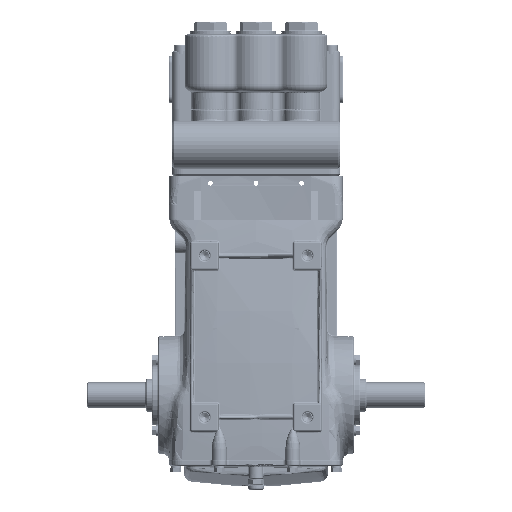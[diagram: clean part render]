
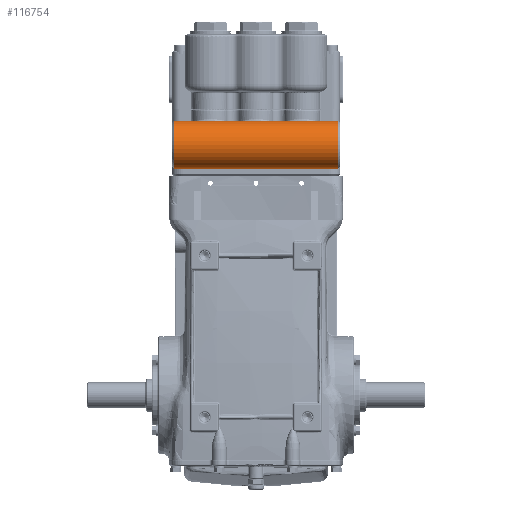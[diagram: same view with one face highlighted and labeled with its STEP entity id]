
A CAD part, front view. The second image highlights one B-rep face of the part: STEP entity #116754.
In plain terms, the highlighted cylindrical face has radius 32.5 mm (diameter 65 mm), a partial arc.
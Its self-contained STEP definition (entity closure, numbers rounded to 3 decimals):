
#525 = LINE ( 'NONE', #527, #55181 ) ;
#527 = CARTESIAN_POINT ( 'NONE',  ( 114., -82., 308.5 ) ) ;
#528 = DIRECTION ( 'NONE',  ( -1., 0., 0. ) ) ;
#587 = LINE ( 'NONE', #589, #55199 ) ;
#589 = CARTESIAN_POINT ( 'NONE',  ( 114., -82., 373.5 ) ) ;
#590 = DIRECTION ( 'NONE',  ( -1., 0., 0. ) ) ;
#9166 = AXIS2_PLACEMENT_3D ( 'NONE', #146806, #146810, #146812 ) ;
#9169 = FACE_OUTER_BOUND ( 'NONE', #172595, .T. ) ;
#9188 = CYLINDRICAL_SURFACE ( 'NONE', #9166, 32.5 ) ;
#55181 = VECTOR ( 'NONE', #528, 1000. ) ;
#55199 = VECTOR ( 'NONE', #590, 1000. ) ;
#72264 = CARTESIAN_POINT ( 'NONE',  ( 112., -82., 341. ) ) ;
#72267 = DIRECTION ( 'NONE',  ( -1., 0., 0. ) ) ;
#72269 = DIRECTION ( 'NONE',  ( 0., 0., -1. ) ) ;
#72278 = CARTESIAN_POINT ( 'NONE',  ( -112., -82., 341. ) ) ;
#72281 = DIRECTION ( 'NONE',  ( 1., 0., 0. ) ) ;
#72283 = DIRECTION ( 'NONE',  ( 0., 0., -1. ) ) ;
#75928 = CIRCLE ( 'NONE', #229793, 32.5 ) ;
#75935 = CIRCLE ( 'NONE', #229797, 32.5 ) ;
#109432 = VERTEX_POINT ( 'NONE', #248234 ) ;
#109437 = VERTEX_POINT ( 'NONE', #248240 ) ;
#109440 = VERTEX_POINT ( 'NONE', #248246 ) ;
#109443 = VERTEX_POINT ( 'NONE', #248248 ) ;
#116754 = ADVANCED_FACE ( 'NONE', ( #9169 ), #9188, .T. ) ;
#134802 = EDGE_CURVE ( 'NONE', #109437, #109432, #75928, .T. ) ;
#134804 = EDGE_CURVE ( 'NONE', #109443, #109440, #75935, .T. ) ;
#138192 = EDGE_CURVE ( 'NONE', #109437, #109440, #525, .T. ) ;
#138213 = EDGE_CURVE ( 'NONE', #109432, #109443, #587, .T. ) ;
#146806 = CARTESIAN_POINT ( 'NONE',  ( 114., -82., 341. ) ) ;
#146810 = DIRECTION ( 'NONE',  ( -1., 0., 0. ) ) ;
#146812 = DIRECTION ( 'NONE',  ( 0., 0., 1. ) ) ;
#156472 = ORIENTED_EDGE ( 'NONE', *, *, #134804, .T. ) ;
#156480 = ORIENTED_EDGE ( 'NONE', *, *, #138192, .F. ) ;
#156481 = ORIENTED_EDGE ( 'NONE', *, *, #134802, .T. ) ;
#156482 = ORIENTED_EDGE ( 'NONE', *, *, #138213, .T. ) ;
#172595 = EDGE_LOOP ( 'NONE', ( #156480, #156481, #156482, #156472 ) ) ;
#229793 = AXIS2_PLACEMENT_3D ( 'NONE', #72264, #72267, #72269 ) ;
#229797 = AXIS2_PLACEMENT_3D ( 'NONE', #72278, #72281, #72283 ) ;
#248234 = CARTESIAN_POINT ( 'NONE',  ( 112., -82., 373.5 ) ) ;
#248240 = CARTESIAN_POINT ( 'NONE',  ( 112., -82., 308.5 ) ) ;
#248246 = CARTESIAN_POINT ( 'NONE',  ( -112., -82., 308.5 ) ) ;
#248248 = CARTESIAN_POINT ( 'NONE',  ( -112., -82., 373.5 ) ) ;
